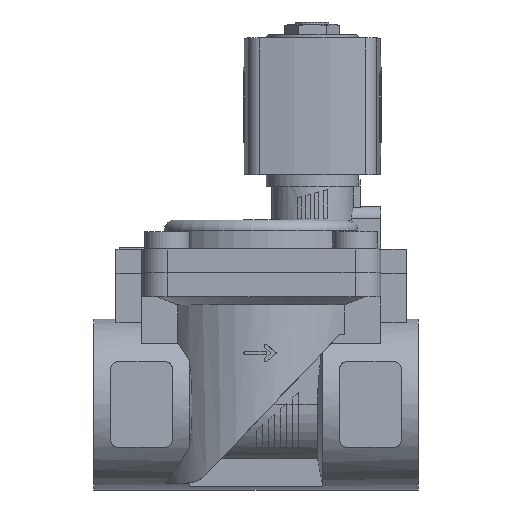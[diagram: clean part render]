
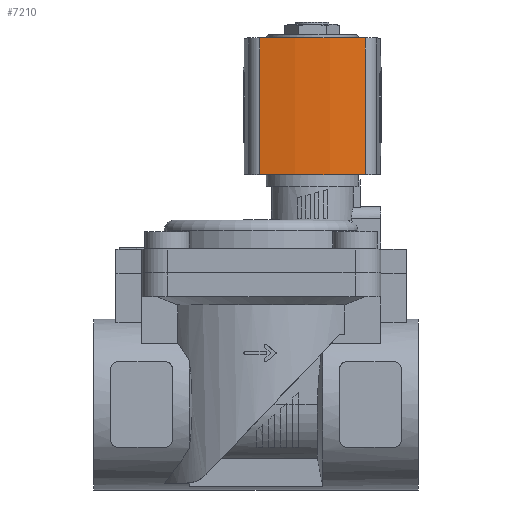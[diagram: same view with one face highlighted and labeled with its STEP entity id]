
A CAD part, top view. The second image highlights one B-rep face of the part: STEP entity #7210.
In plain terms, the highlighted cylindrical face has radius 80 mm (diameter 160 mm), a partial arc.
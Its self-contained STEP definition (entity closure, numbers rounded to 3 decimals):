
#247=CYLINDRICAL_SURFACE('',#7811,80.);
#694=LINE('',#11396,#1232);
#695=LINE('',#11400,#1233);
#1232=VECTOR('',#9353,1000.);
#1233=VECTOR('',#9358,1000.);
#2727=ORIENTED_EDGE('',*,*,#3793,.T.);
#2728=ORIENTED_EDGE('',*,*,#3794,.F.);
#2729=ORIENTED_EDGE('',*,*,#3741,.F.);
#2730=ORIENTED_EDGE('',*,*,#3792,.T.);
#3741=EDGE_CURVE('',#4388,#4389,#4670,.T.);
#3792=EDGE_CURVE('',#4388,#4432,#694,.T.);
#3793=EDGE_CURVE('',#4432,#4433,#4691,.T.);
#3794=EDGE_CURVE('',#4389,#4433,#695,.T.);
#4388=VERTEX_POINT('',#11296);
#4389=VERTEX_POINT('',#11297);
#4432=VERTEX_POINT('',#11395);
#4433=VERTEX_POINT('',#11399);
#4670=CIRCLE('',#7777,80.);
#4691=CIRCLE('',#7812,80.);
#5014=EDGE_LOOP('',(#2727,#2728,#2729,#2730));
#5412=FACE_BOUND('',#5014,.T.);
#7210=ADVANCED_FACE('',(#5412),#247,.T.);
#7777=AXIS2_PLACEMENT_3D('',#11295,#9263,#9264);
#7811=AXIS2_PLACEMENT_3D('',#11397,#9354,#9355);
#7812=AXIS2_PLACEMENT_3D('',#11398,#9356,#9357);
#9263=DIRECTION('',(0.,1.,0.));
#9264=DIRECTION('',(1.,0.,0.));
#9353=DIRECTION('',(0.,-1.,0.));
#9354=DIRECTION('',(0.,-1.,0.));
#9355=DIRECTION('',(0.,0.,-1.));
#9356=DIRECTION('',(0.,1.,0.));
#9357=DIRECTION('',(1.,0.,0.));
#9358=DIRECTION('',(0.,-1.,0.));
#11295=CARTESIAN_POINT('',(-56.5,14.,0.));
#11296=CARTESIAN_POINT('',(21.99,14.,15.472));
#11297=CARTESIAN_POINT('',(21.99,14.,-15.472));
#11395=CARTESIAN_POINT('',(21.99,-26.,15.472));
#11396=CARTESIAN_POINT('',(21.99,14.,15.472));
#11397=CARTESIAN_POINT('',(-56.5,14.,0.));
#11398=CARTESIAN_POINT('',(-56.5,-26.,0.));
#11399=CARTESIAN_POINT('',(21.99,-26.,-15.472));
#11400=CARTESIAN_POINT('',(21.99,14.,-15.472));
